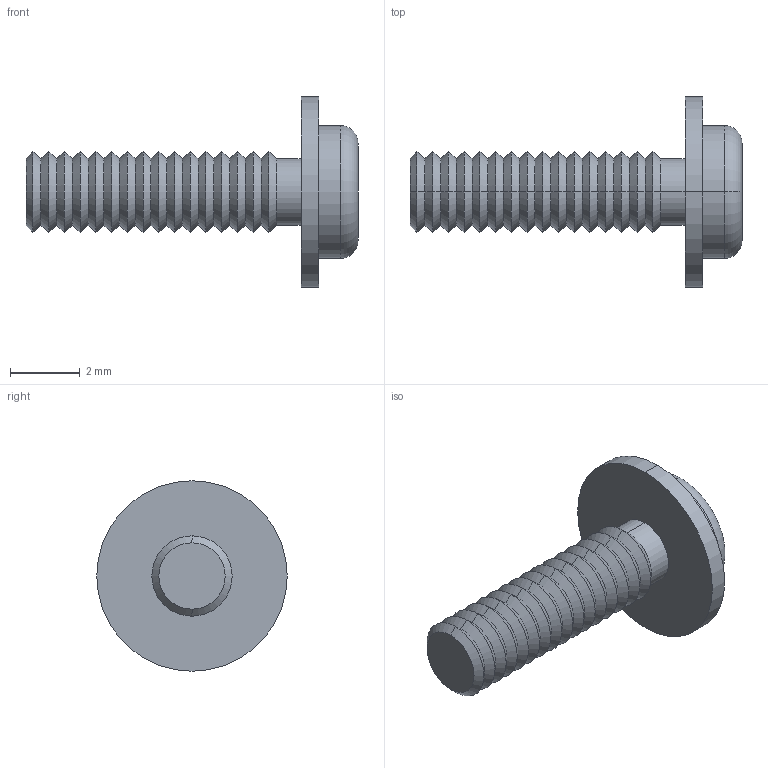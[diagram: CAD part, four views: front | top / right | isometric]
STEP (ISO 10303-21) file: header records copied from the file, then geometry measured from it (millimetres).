
FILE_DESCRIPTION (( 'STEP AP214' ), '1' );
FILE_NAME ('Cargol 2,3x9,5 cabeza grande PP86 B.STEP', '2016-11-14T15:07:55', ( 'aaa' ), ( '' ), 'SwSTEP 2.0', 'SolidWorks 2013', '' );
FILE_SCHEMA (( 'AUTOMOTIVE_DESIGN' ));
Length unit declared in the file: millimetre
Products named in the file (1): Cargol 2,3x9,5 cabeza grande PP86 B
Bounding box: 9.5 x 5.45 x 5.45 mm (x, y, z)
Volume: 50.4 mm3; surface area: 136.6 mm2
Topology: 1 solids, 1 shells, 89 faces, 186 edges, 102 vertices
Faces by surface type: cone 64, plane 17, cylinder 6, torus 2
Entity records: 2346 total; most frequent: DIRECTION 446, CARTESIAN_POINT 378, ORIENTED_EDGE 372, EDGE_CURVE 186, AXIS2_PLACEMENT_3D 170, LINE 106, VECTOR 106, VERTEX_POINT 102
